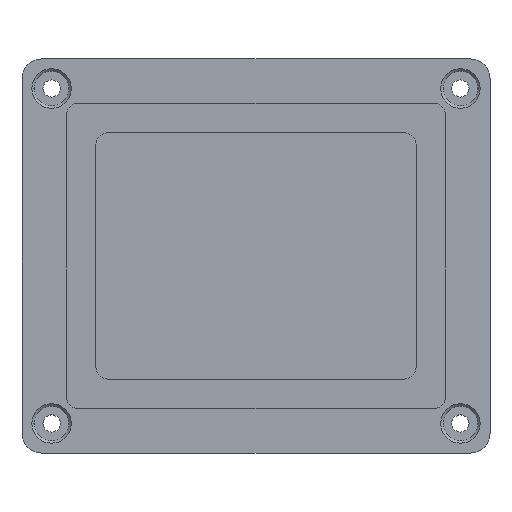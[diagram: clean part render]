
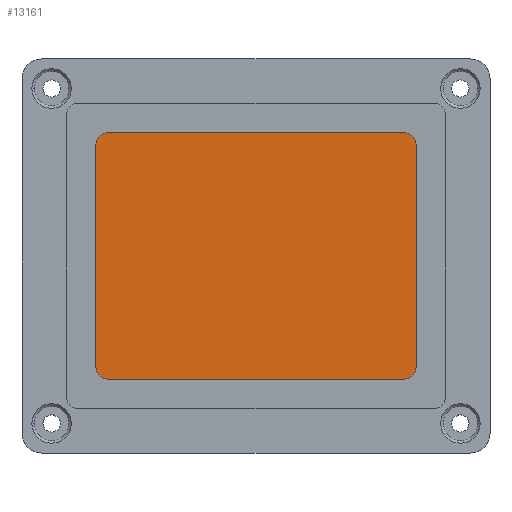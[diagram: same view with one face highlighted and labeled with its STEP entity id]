
A CAD part, top view. The second image highlights one B-rep face of the part: STEP entity #13161.
In plain terms, the highlighted planar face has unit normal (0, 0, 1).
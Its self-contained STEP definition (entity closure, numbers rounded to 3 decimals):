
#11876=CARTESIAN_POINT(' ',(-32.5,-22.5,4.8));
#11877=VERTEX_POINT(' ',#11876);
#11891=CARTESIAN_POINT(' ',(-32.5,-22.5,4.8));
#11896=DIRECTION(' ',(0.,1.,0.));
#11901=VECTOR(' ',#11896,1.);
#11906=LINE(' ',#11891,#11901);
#11911=CARTESIAN_POINT(' ',(-32.5,22.5,4.8));
#11912=VERTEX_POINT(' ',#11911);
#11916=EDGE_CURVE(' ',#11877,#11912,#11906,.T.);
#12036=CARTESIAN_POINT(' ',(-30.,22.5,4.8));
#12041=DIRECTION(' ',(0.,0.,1.));
#12046=DIRECTION(' ',(0.,1.,0.));
#12051=AXIS2_PLACEMENT_3D(' ',#12036,#12041,#12046);
#12056=CIRCLE(' ',#12051,2.5);
#12061=CARTESIAN_POINT(' ',(-30.,25.,4.8));
#12062=VERTEX_POINT(' ',#12061);
#12066=EDGE_CURVE(' ',#12062,#11912,#12056,.T.);
#12196=CARTESIAN_POINT(' ',(-30.,25.,4.8));
#12201=DIRECTION(' ',(1.,0.,0.));
#12206=VECTOR(' ',#12201,1.);
#12211=LINE(' ',#12196,#12206);
#12216=CARTESIAN_POINT(' ',(30.,25.,4.8));
#12217=VERTEX_POINT(' ',#12216);
#12221=EDGE_CURVE(' ',#12062,#12217,#12211,.T.);
#12351=CARTESIAN_POINT(' ',(30.,22.5,4.8));
#12356=DIRECTION(' ',(0.,0.,1.));
#12361=DIRECTION(' ',(1.,0.,0.));
#12366=AXIS2_PLACEMENT_3D(' ',#12351,#12356,#12361);
#12371=CIRCLE(' ',#12366,2.5);
#12376=CARTESIAN_POINT(' ',(32.5,22.5,4.8));
#12377=VERTEX_POINT(' ',#12376);
#12381=EDGE_CURVE(' ',#12377,#12217,#12371,.T.);
#12511=CARTESIAN_POINT(' ',(32.5,22.5,4.8));
#12516=DIRECTION(' ',(0.,-1.,0.));
#12521=VECTOR(' ',#12516,1.);
#12526=LINE(' ',#12511,#12521);
#12531=CARTESIAN_POINT(' ',(32.5,-22.5,4.8));
#12532=VERTEX_POINT(' ',#12531);
#12536=EDGE_CURVE(' ',#12377,#12532,#12526,.T.);
#12666=CARTESIAN_POINT(' ',(30.,-22.5,4.8));
#12671=DIRECTION(' ',(0.,0.,1.));
#12676=DIRECTION(' ',(0.,-1.,0.));
#12681=AXIS2_PLACEMENT_3D(' ',#12666,#12671,#12676);
#12686=CIRCLE(' ',#12681,2.5);
#12691=CARTESIAN_POINT(' ',(30.,-25.,4.8));
#12692=VERTEX_POINT(' ',#12691);
#12696=EDGE_CURVE(' ',#12692,#12532,#12686,.T.);
#12826=CARTESIAN_POINT(' ',(30.,-25.,4.8));
#12831=DIRECTION(' ',(-1.,0.,0.));
#12836=VECTOR(' ',#12831,1.);
#12841=LINE(' ',#12826,#12836);
#12846=CARTESIAN_POINT(' ',(-30.,-25.,4.8));
#12847=VERTEX_POINT(' ',#12846);
#12851=EDGE_CURVE(' ',#12692,#12847,#12841,.T.);
#12981=CARTESIAN_POINT(' ',(-30.,-22.5,4.8));
#12986=DIRECTION(' ',(0.,0.,1.));
#12991=DIRECTION(' ',(-1.,0.,0.));
#12996=AXIS2_PLACEMENT_3D(' ',#12981,#12986,#12991);
#13001=CIRCLE(' ',#12996,2.5);
#13006=EDGE_CURVE(' ',#11877,#12847,#13001,.T.);
#13086=CARTESIAN_POINT(' ',(-32.5,-25.,4.8));
#13091=DIRECTION(' ',(0.,0.,1.));
#13096=DIRECTION(' ',(1.,0.,0.));
#13101=AXIS2_PLACEMENT_3D(' ',#13086,#13091,#13096);
#13106=PLANE(' ',#13101);
#13111=ORIENTED_EDGE(' ',*,*,#12381,.T.);
#13116=ORIENTED_EDGE(' ',*,*,#12221,.F.);
#13121=ORIENTED_EDGE(' ',*,*,#12066,.T.);
#13126=ORIENTED_EDGE(' ',*,*,#11916,.F.);
#13131=ORIENTED_EDGE(' ',*,*,#13006,.T.);
#13136=ORIENTED_EDGE(' ',*,*,#12851,.F.);
#13141=ORIENTED_EDGE(' ',*,*,#12696,.T.);
#13146=ORIENTED_EDGE(' ',*,*,#12536,.F.);
#13151=EDGE_LOOP(' ',(#13111,#13116,#13121,#13126,#13131,#13136,#13141,#13146));
#13156=FACE_OUTER_BOUND(' ',#13151,.T.);
#13161=ADVANCED_FACE(' ',(#13156),#13106,.T.);
